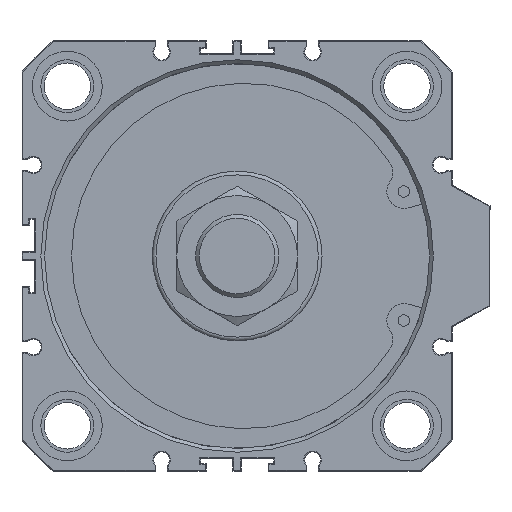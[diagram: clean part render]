
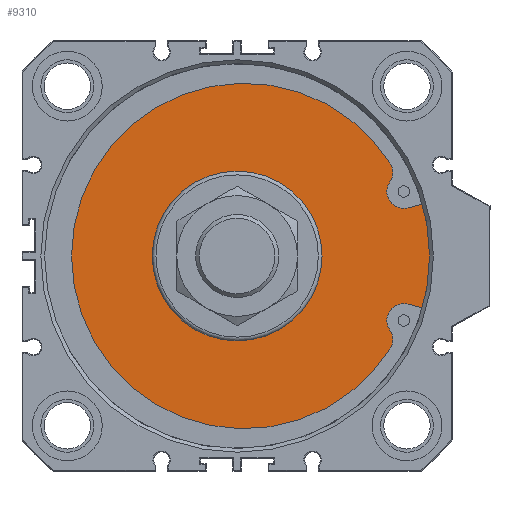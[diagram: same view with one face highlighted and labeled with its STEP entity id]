
A CAD part, front view. The second image highlights one B-rep face of the part: STEP entity #9310.
In plain terms, the highlighted planar face has unit normal (0, -1, 0).
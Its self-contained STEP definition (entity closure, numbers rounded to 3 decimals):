
#56=LINE('',#12784,#656);
#57=LINE('',#12797,#657);
#656=VECTOR('',#10707,1000.);
#657=VECTOR('',#10718,1000.);
#1433=PLANE('',#9836);
#1989=ORIENTED_EDGE('',*,*,#3610,.T.);
#1990=ORIENTED_EDGE('',*,*,#3611,.T.);
#1991=ORIENTED_EDGE('',*,*,#3612,.T.);
#1992=ORIENTED_EDGE('',*,*,#3613,.T.);
#1993=ORIENTED_EDGE('',*,*,#3614,.T.);
#1994=ORIENTED_EDGE('',*,*,#3615,.T.);
#1995=ORIENTED_EDGE('',*,*,#3616,.T.);
#1996=ORIENTED_EDGE('',*,*,#3617,.F.);
#1997=ORIENTED_EDGE('',*,*,#3606,.F.);
#3606=EDGE_CURVE('',#4447,#4447,#4940,.T.);
#3610=EDGE_CURVE('',#4451,#4452,#56,.T.);
#3611=EDGE_CURVE('',#4452,#4453,#4944,.T.);
#3612=EDGE_CURVE('',#4453,#4454,#4945,.T.);
#3613=EDGE_CURVE('',#4454,#4455,#4946,.T.);
#3614=EDGE_CURVE('',#4455,#4456,#4947,.T.);
#3615=EDGE_CURVE('',#4456,#4457,#4948,.T.);
#3616=EDGE_CURVE('',#4457,#4458,#57,.T.);
#3617=EDGE_CURVE('',#4451,#4458,#4949,.T.);
#4447=VERTEX_POINT('',#12773);
#4451=VERTEX_POINT('',#12785);
#4452=VERTEX_POINT('',#12786);
#4453=VERTEX_POINT('',#12788);
#4454=VERTEX_POINT('',#12790);
#4455=VERTEX_POINT('',#12792);
#4456=VERTEX_POINT('',#12794);
#4457=VERTEX_POINT('',#12796);
#4458=VERTEX_POINT('',#12798);
#4940=CIRCLE('',#9829,22.5);
#4944=CIRCLE('',#9837,4.5);
#4945=CIRCLE('',#9838,4.5);
#4946=CIRCLE('',#9839,45.77);
#4947=CIRCLE('',#9840,4.5);
#4948=CIRCLE('',#9841,4.5);
#4949=CIRCLE('',#9842,53.);
#5218=EDGE_LOOP('',(#1989,#1990,#1991,#1992,#1993,#1994,#1995,#1996));
#5219=EDGE_LOOP('',(#1997));
#5732=FACE_BOUND('',#5218,.T.);
#5733=FACE_BOUND('',#5219,.T.);
#9310=ADVANCED_FACE('',(#5732,#5733),#1433,.T.);
#9829=AXIS2_PLACEMENT_3D('',#12772,#10691,#10692);
#9836=AXIS2_PLACEMENT_3D('',#12783,#10705,#10706);
#9837=AXIS2_PLACEMENT_3D('',#12787,#10708,#10709);
#9838=AXIS2_PLACEMENT_3D('',#12789,#10710,#10711);
#9839=AXIS2_PLACEMENT_3D('',#12791,#10712,#10713);
#9840=AXIS2_PLACEMENT_3D('',#12793,#10714,#10715);
#9841=AXIS2_PLACEMENT_3D('',#12795,#10716,#10717);
#9842=AXIS2_PLACEMENT_3D('',#12799,#10719,#10720);
#10691=DIRECTION('',(0.,-1.,0.));
#10692=DIRECTION('',(1.,0.,0.));
#10705=DIRECTION('',(0.,-1.,0.));
#10706=DIRECTION('',(1.,0.,0.));
#10707=DIRECTION('',(-0.966,0.,-0.259));
#10708=DIRECTION('',(0.,1.,0.));
#10709=DIRECTION('',(1.,0.,0.));
#10710=DIRECTION('',(0.,-1.,0.));
#10711=DIRECTION('',(-1.,0.,0.));
#10712=DIRECTION('',(0.,-1.,0.));
#10713=DIRECTION('',(1.,0.,0.));
#10714=DIRECTION('',(0.,-1.,0.));
#10715=DIRECTION('',(-1.,0.,0.));
#10716=DIRECTION('',(0.,1.,0.));
#10717=DIRECTION('',(1.,0.,0.));
#10718=DIRECTION('',(0.966,0.,-0.259));
#10719=DIRECTION('',(0.,1.,0.));
#10720=DIRECTION('',(-1.,0.,0.));
#12772=CARTESIAN_POINT('',(0.,8.,0.));
#12773=CARTESIAN_POINT('',(22.5,8.,0.));
#12783=CARTESIAN_POINT('',(0.,8.,-53.));
#12784=CARTESIAN_POINT('',(51.039,8.,14.283));
#12785=CARTESIAN_POINT('',(51.039,8.,14.283));
#12786=CARTESIAN_POINT('',(45.35,8.,12.758));
#12787=CARTESIAN_POINT('',(44.185,8.,17.105));
#12788=CARTESIAN_POINT('',(40.45,8.,19.615));
#12789=CARTESIAN_POINT('',(36.73,8.,22.147));
#12790=CARTESIAN_POINT('',(40.642,8.,24.372));
#12791=CARTESIAN_POINT('',(1.9,8.,0.));
#12792=CARTESIAN_POINT('',(40.642,8.,-24.372));
#12793=CARTESIAN_POINT('',(36.73,8.,-22.147));
#12794=CARTESIAN_POINT('',(40.45,8.,-19.615));
#12795=CARTESIAN_POINT('',(44.185,8.,-17.105));
#12796=CARTESIAN_POINT('',(45.35,8.,-12.758));
#12797=CARTESIAN_POINT('',(45.35,8.,-12.758));
#12798=CARTESIAN_POINT('',(51.039,8.,-14.283));
#12799=CARTESIAN_POINT('',(0.,8.,0.));
